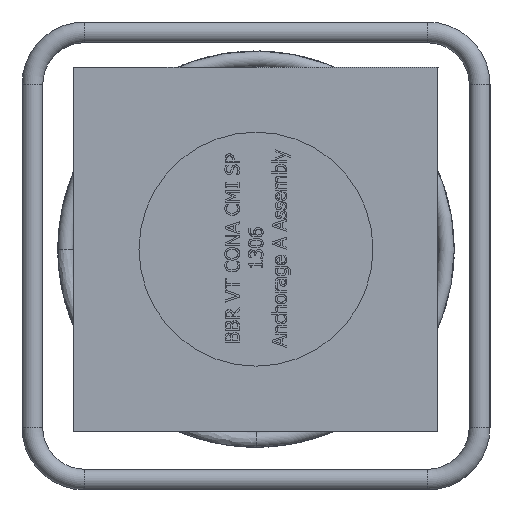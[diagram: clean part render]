
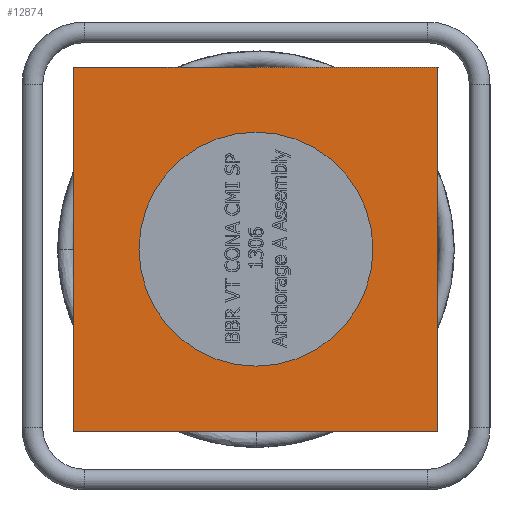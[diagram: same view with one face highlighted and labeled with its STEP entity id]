
A CAD part, left-side view. The second image highlights one B-rep face of the part: STEP entity #12874.
In plain terms, the highlighted planar face has unit normal (-1, 0, 0).
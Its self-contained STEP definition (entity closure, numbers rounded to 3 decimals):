
#1982=LINE('',#25667,#3057);
#1986=LINE('',#25674,#3061);
#1989=LINE('',#25679,#3064);
#1992=LINE('',#25683,#3067);
#3057=VECTOR('',#15178,280.);
#3061=VECTOR('',#15184,280.);
#3064=VECTOR('',#15189,280.);
#3067=VECTOR('',#15194,280.);
#3386=PLANE('',#13295);
#3508=FACE_BOUND('',#4953,.T.);
#4188=FACE_OUTER_BOUND('',#4952,.T.);
#4952=EDGE_LOOP('',(#11435,#11436,#11437,#11438));
#4953=EDGE_LOOP('',(#11439));
#5047=CIRCLE('',#13277,90.);
#6220=VERTEX_POINT('',#22696);
#6234=VERTEX_POINT('',#25665);
#6235=VERTEX_POINT('',#25666);
#6237=VERTEX_POINT('',#25673);
#6238=VERTEX_POINT('',#25678);
#7957=EDGE_CURVE('',#6220,#6220,#5047,.T.);
#7972=EDGE_CURVE('',#6234,#6235,#1982,.T.);
#7976=EDGE_CURVE('',#6235,#6237,#1986,.T.);
#7979=EDGE_CURVE('',#6237,#6238,#1989,.T.);
#7982=EDGE_CURVE('',#6238,#6234,#1992,.T.);
#11435=ORIENTED_EDGE('',*,*,#7982,.T.);
#11436=ORIENTED_EDGE('',*,*,#7972,.T.);
#11437=ORIENTED_EDGE('',*,*,#7976,.T.);
#11438=ORIENTED_EDGE('',*,*,#7979,.T.);
#11439=ORIENTED_EDGE('',*,*,#7957,.T.);
#12874=ADVANCED_FACE('',(#4188,#3508),#3386,.F.);
#13277=AXIS2_PLACEMENT_3D('',#22697,#15142,#15143);
#13295=AXIS2_PLACEMENT_3D('',#25685,#15196,#15197);
#15142=DIRECTION('center_axis',(1.,0.,0.));
#15143=DIRECTION('ref_axis',(0.,0.,
1.));
#15178=DIRECTION('',(0.,0.,-1.));
#15184=DIRECTION('',(0.,-1.,0.));
#15189=DIRECTION('',(0.,0.,1.));
#15194=DIRECTION('',(0.,1.,0.));
#15196=DIRECTION('center_axis',(1.,0.,0.));
#15197=DIRECTION('ref_axis',(0.,0.,1.));
#22696=CARTESIAN_POINT('',(-112.151,-90.,5.253));
#22697=CARTESIAN_POINT('Origin',(-112.151,0.,
5.253));
#25665=CARTESIAN_POINT('',(-112.151,140.,145.253));
#25666=CARTESIAN_POINT('',(-112.151,140.,-134.747));
#25667=CARTESIAN_POINT('',(-112.151,140.,145.253));
#25673=CARTESIAN_POINT('',(-112.151,-140.,-134.747));
#25674=CARTESIAN_POINT('',(-112.151,140.,-134.747));
#25678=CARTESIAN_POINT('',(-112.151,-140.,145.253));
#25679=CARTESIAN_POINT('',(-112.151,-140.,-134.747));
#25683=CARTESIAN_POINT('',(-112.151,-140.,145.253));
#25685=CARTESIAN_POINT('Origin',(-112.151,0.,
5.253));
